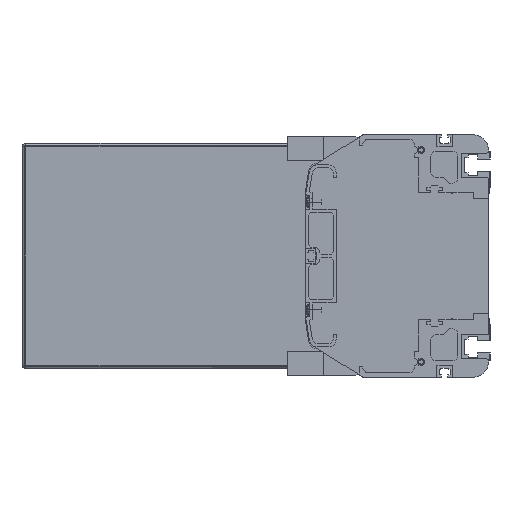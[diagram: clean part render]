
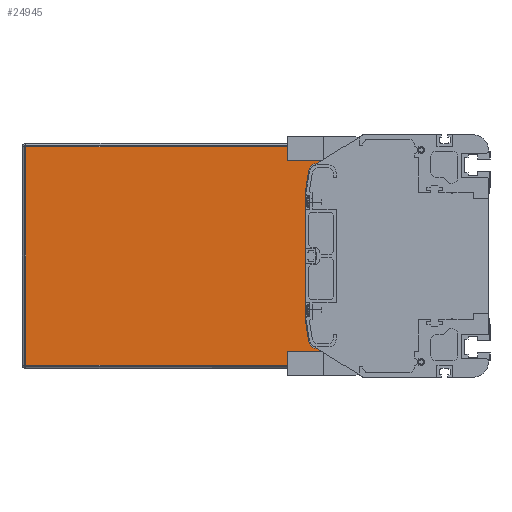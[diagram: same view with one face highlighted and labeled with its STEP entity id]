
A CAD part, left-side view. The second image highlights one B-rep face of the part: STEP entity #24945.
In plain terms, the highlighted planar face has unit normal (-1, 0, 0).
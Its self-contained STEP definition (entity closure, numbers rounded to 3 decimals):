
#1282=DIRECTION('',(0.,0.,-1.));
#1283=VECTOR('',#1282,11.);
#1284=CARTESIAN_POINT('',(2986.5,86.,-61.));
#1285=LINE('',#1284,#1283);
#1291=DIRECTION('',(0.,0.,-1.));
#1292=VECTOR('',#1291,11.);
#1293=CARTESIAN_POINT('',(2986.5,86.,72.));
#1294=LINE('',#1293,#1292);
#1304=DIRECTION('',(0.,-1.,0.));
#1305=VECTOR('',#1304,220.5);
#1306=CARTESIAN_POINT('',(2986.5,306.5,-72.));
#1307=LINE('',#1306,#1305);
#5224=DIRECTION('',(0.,1.,0.));
#5225=VECTOR('',#5224,28.728);
#5226=CARTESIAN_POINT('',(2986.5,86.,-61.));
#5227=LINE('',#5226,#5225);
#5232=CARTESIAN_POINT('',(2986.5,114.728,56.));
#5233=DIRECTION('',(-1.,0.,0.));
#5234=DIRECTION('',(0.,0.,1.));
#5235=AXIS2_PLACEMENT_3D('',#5232,#5233,#5234);
#5237=DIRECTION('',(0.,0.156,-0.988));
#5238=VECTOR('',#5237,14.963);
#5239=CARTESIAN_POINT('',(2986.5,119.666,56.78));
#5240=LINE('',#5239,#5238);
#5241=DIRECTION('',(0.,-0.156,-0.988));
#5242=VECTOR('',#5241,14.963);
#5243=CARTESIAN_POINT('',(2986.5,122.,-42.));
#5244=LINE('',#5243,#5242);
#5245=CARTESIAN_POINT('',(2986.5,114.728,-56.));
#5246=DIRECTION('',(-1.,0.,0.));
#5247=DIRECTION('',(0.,0.988,-0.156));
#5248=AXIS2_PLACEMENT_3D('',#5245,#5246,#5247);
#5254=DIRECTION('',(0.,0.,-1.));
#5255=VECTOR('',#5254,144.);
#5256=CARTESIAN_POINT('',(2986.5,306.5,72.));
#5257=LINE('',#5256,#5255);
#5423=DIRECTION('',(0.,1.,0.));
#5424=VECTOR('',#5423,220.5);
#5425=CARTESIAN_POINT('',(2986.5,86.,72.));
#5426=LINE('',#5425,#5424);
#6009=DIRECTION('',(0.,-1.,0.));
#6010=VECTOR('',#6009,28.728);
#6011=CARTESIAN_POINT('',(2986.5,114.728,61.));
#6012=LINE('',#6011,#6010);
#6025=DIRECTION('',(0.,0.,1.));
#6026=VECTOR('',#6025,84.);
#6027=CARTESIAN_POINT('',(2986.5,122.,-42.));
#6028=LINE('',#6027,#6026);
#16338=CARTESIAN_POINT('',(2986.5,306.5,-72.));
#16339=CARTESIAN_POINT('',(2986.5,86.,-72.));
#16340=VERTEX_POINT('',#16338);
#16341=VERTEX_POINT('',#16339);
#16342=CARTESIAN_POINT('',(2986.5,86.,-61.));
#16343=VERTEX_POINT('',#16342);
#16344=CARTESIAN_POINT('',(2986.5,114.728,-61.));
#16345=VERTEX_POINT('',#16344);
#16346=CARTESIAN_POINT('',(2986.5,119.666,-56.78));
#16347=VERTEX_POINT('',#16346);
#16348=CARTESIAN_POINT('',(2986.5,122.,-42.));
#16349=VERTEX_POINT('',#16348);
#16350=CARTESIAN_POINT('',(2986.5,122.,42.));
#16351=VERTEX_POINT('',#16350);
#16352=CARTESIAN_POINT('',(2986.5,119.666,56.78));
#16353=VERTEX_POINT('',#16352);
#16354=CARTESIAN_POINT('',(2986.5,114.728,61.));
#16355=VERTEX_POINT('',#16354);
#16356=CARTESIAN_POINT('',(2986.5,86.,61.));
#16357=VERTEX_POINT('',#16356);
#16358=CARTESIAN_POINT('',(2986.5,86.,72.));
#16359=VERTEX_POINT('',#16358);
#16360=CARTESIAN_POINT('',(2986.5,306.5,72.));
#16361=VERTEX_POINT('',#16360);
#24918=CARTESIAN_POINT('',(2986.5,196.25,0.));
#24919=DIRECTION('',(1.,0.,0.));
#24920=DIRECTION('',(0.,0.,-1.));
#24921=AXIS2_PLACEMENT_3D('',#24918,#24919,#24920);
#24922=PLANE('',#24921);
#24923=ORIENTED_EDGE('',*,*,#21031,.F.);
#24925=ORIENTED_EDGE('',*,*,#24924,.F.);
#24927=ORIENTED_EDGE('',*,*,#24926,.F.);
#24928=ORIENTED_EDGE('',*,*,#21013,.T.);
#24930=ORIENTED_EDGE('',*,*,#24929,.F.);
#24932=ORIENTED_EDGE('',*,*,#24931,.T.);
#24934=ORIENTED_EDGE('',*,*,#24933,.T.);
#24936=ORIENTED_EDGE('',*,*,#24935,.F.);
#24938=ORIENTED_EDGE('',*,*,#24937,.T.);
#24940=ORIENTED_EDGE('',*,*,#24939,.T.);
#24941=ORIENTED_EDGE('',*,*,#24910,.F.);
#24942=ORIENTED_EDGE('',*,*,#20981,.T.);
#24943=EDGE_LOOP('',(#24923,#24925,#24927,#24928,#24930,#24932,#24934,#24936,
#24938,#24940,#24941,#24942));
#24944=FACE_OUTER_BOUND('',#24943,.F.);
#24945=ADVANCED_FACE('',(#24944),#24922,.F.);
#5236=CIRCLE('',#5235,5.);
#5249=CIRCLE('',#5248,5.);
#20981=EDGE_CURVE('',#16343,#16341,#1285,.T.);
#21013=EDGE_CURVE('',#16359,#16357,#1294,.T.);
#21031=EDGE_CURVE('',#16340,#16341,#1307,.T.);
#24910=EDGE_CURVE('',#16343,#16345,#5227,.T.);
#24924=EDGE_CURVE('',#16361,#16340,#5257,.T.);
#24926=EDGE_CURVE('',#16359,#16361,#5426,.T.);
#24929=EDGE_CURVE('',#16355,#16357,#6012,.T.);
#24931=EDGE_CURVE('',#16355,#16353,#5236,.T.);
#24933=EDGE_CURVE('',#16353,#16351,#5240,.T.);
#24935=EDGE_CURVE('',#16349,#16351,#6028,.T.);
#24937=EDGE_CURVE('',#16349,#16347,#5244,.T.);
#24939=EDGE_CURVE('',#16347,#16345,#5249,.T.);
